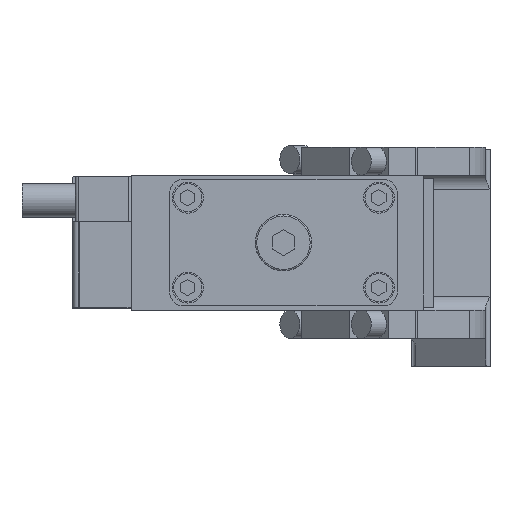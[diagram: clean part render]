
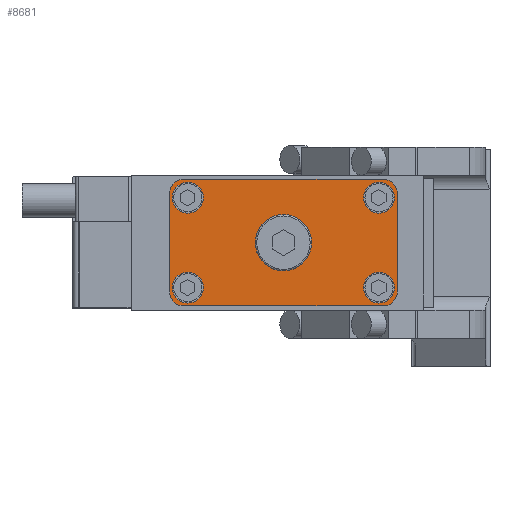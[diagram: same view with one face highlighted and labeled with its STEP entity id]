
A CAD part, front view. The second image highlights one B-rep face of the part: STEP entity #8681.
In plain terms, the highlighted planar face has unit normal (0, -1, 0).
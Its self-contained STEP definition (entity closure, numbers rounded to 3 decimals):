
#235=CIRCLE('',#9187,5.);
#238=CIRCLE('',#9192,5.);
#240=CIRCLE('',#9196,5.);
#242=CIRCLE('',#9200,5.);
#250=CIRCLE('',#9211,5.5);
#251=CIRCLE('',#9212,5.5);
#252=CIRCLE('',#9213,5.5);
#253=CIRCLE('',#9214,5.5);
#254=CIRCLE('',#9215,10.);
#747=ORIENTED_EDGE('',*,*,#2525,.F.);
#748=ORIENTED_EDGE('',*,*,#2526,.F.);
#749=ORIENTED_EDGE('',*,*,#2527,.F.);
#750=ORIENTED_EDGE('',*,*,#2528,.F.);
#751=ORIENTED_EDGE('',*,*,#2529,.T.);
#752=ORIENTED_EDGE('',*,*,#2492,.F.);
#753=ORIENTED_EDGE('',*,*,#2515,.F.);
#754=ORIENTED_EDGE('',*,*,#2512,.F.);
#755=ORIENTED_EDGE('',*,*,#2509,.F.);
#756=ORIENTED_EDGE('',*,*,#2506,.F.);
#757=ORIENTED_EDGE('',*,*,#2503,.F.);
#758=ORIENTED_EDGE('',*,*,#2500,.F.);
#759=ORIENTED_EDGE('',*,*,#2497,.F.);
#2492=EDGE_CURVE('',#3378,#3379,#235,.T.);
#2497=EDGE_CURVE('',#3379,#3383,#4005,.T.);
#2500=EDGE_CURVE('',#3383,#3385,#238,.T.);
#2503=EDGE_CURVE('',#3385,#3387,#4009,.T.);
#2506=EDGE_CURVE('',#3387,#3389,#240,.T.);
#2509=EDGE_CURVE('',#3389,#3391,#4013,.T.);
#2512=EDGE_CURVE('',#3391,#3393,#242,.T.);
#2515=EDGE_CURVE('',#3393,#3378,#4017,.T.);
#2525=EDGE_CURVE('',#3403,#3403,#250,.T.);
#2526=EDGE_CURVE('',#3404,#3404,#251,.T.);
#2527=EDGE_CURVE('',#3405,#3405,#252,.T.);
#2528=EDGE_CURVE('',#3406,#3406,#253,.T.);
#2529=EDGE_CURVE('',#3407,#3407,#254,.T.);
#3378=VERTEX_POINT('',#12247);
#3379=VERTEX_POINT('',#12248);
#3383=VERTEX_POINT('',#12258);
#3385=VERTEX_POINT('',#12264);
#3387=VERTEX_POINT('',#12270);
#3389=VERTEX_POINT('',#12276);
#3391=VERTEX_POINT('',#12282);
#3393=VERTEX_POINT('',#12288);
#3403=VERTEX_POINT('',#12314);
#3404=VERTEX_POINT('',#12316);
#3405=VERTEX_POINT('',#12318);
#3406=VERTEX_POINT('',#12320);
#3407=VERTEX_POINT('',#12322);
#4005=LINE('',#12257,#4645);
#4009=LINE('',#12269,#4649);
#4013=LINE('',#12281,#4653);
#4017=LINE('',#12293,#4657);
#4645=VECTOR('',#10147,1000.);
#4649=VECTOR('',#10159,1000.);
#4653=VECTOR('',#10171,1000.);
#4657=VECTOR('',#10183,1000.);
#5218=EDGE_LOOP('',(#747));
#5219=EDGE_LOOP('',(#748));
#5220=EDGE_LOOP('',(#749));
#5221=EDGE_LOOP('',(#750));
#5222=EDGE_LOOP('',(#751));
#5223=EDGE_LOOP('',(#752,#753,#754,#755,#756,#757,#758,#759));
#5796=FACE_BOUND('',#5218,.T.);
#5797=FACE_BOUND('',#5219,.T.);
#5798=FACE_BOUND('',#5220,.T.);
#5799=FACE_BOUND('',#5221,.T.);
#5800=FACE_BOUND('',#5222,.T.);
#5801=FACE_BOUND('',#5223,.T.);
#6317=PLANE('',#9210);
#8681=ADVANCED_FACE('',(#5796,#5797,#5798,#5799,#5800,#5801),#6317,.F.);
#9187=AXIS2_PLACEMENT_3D('',#12246,#10137,#10138);
#9192=AXIS2_PLACEMENT_3D('',#12263,#10152,#10153);
#9196=AXIS2_PLACEMENT_3D('',#12275,#10164,#10165);
#9200=AXIS2_PLACEMENT_3D('',#12287,#10176,#10177);
#9210=AXIS2_PLACEMENT_3D('',#12312,#10201,#10202);
#9211=AXIS2_PLACEMENT_3D('',#12313,#10203,#10204);
#9212=AXIS2_PLACEMENT_3D('',#12315,#10205,#10206);
#9213=AXIS2_PLACEMENT_3D('',#12317,#10207,#10208);
#9214=AXIS2_PLACEMENT_3D('',#12319,#10209,#10210);
#9215=AXIS2_PLACEMENT_3D('',#12321,#10211,#10212);
#10137=DIRECTION('',(0.,1.,0.));
#10138=DIRECTION('',(1.,0.,0.));
#10147=DIRECTION('',(0.,0.,1.));
#10152=DIRECTION('',(0.,1.,0.));
#10153=DIRECTION('',(1.,0.,0.));
#10159=DIRECTION('',(1.,0.,0.));
#10164=DIRECTION('',(0.,1.,0.));
#10165=DIRECTION('',(1.,0.,0.));
#10171=DIRECTION('',(0.,0.,-1.));
#10176=DIRECTION('',(0.,1.,0.));
#10177=DIRECTION('',(1.,0.,0.));
#10183=DIRECTION('',(-1.,0.,0.));
#10201=DIRECTION('',(0.,1.,0.));
#10202=DIRECTION('',(0.,0.,1.));
#10203=DIRECTION('',(0.,-1.,0.));
#10204=DIRECTION('',(0.,0.,-1.));
#10205=DIRECTION('',(0.,-1.,0.));
#10206=DIRECTION('',(0.,0.,-1.));
#10207=DIRECTION('',(0.,-1.,0.));
#10208=DIRECTION('',(0.,0.,-1.));
#10209=DIRECTION('',(0.,-1.,0.));
#10210=DIRECTION('',(0.,0.,-1.));
#10211=DIRECTION('',(0.,1.,0.));
#10212=DIRECTION('',(1.,0.,0.));
#12246=CARTESIAN_POINT('',(-35.5,0.,-17.5));
#12247=CARTESIAN_POINT('',(-35.5,0.,-22.5));
#12248=CARTESIAN_POINT('',(-40.5,0.,-17.5));
#12257=CARTESIAN_POINT('',(-40.5,0.,-17.5));
#12258=CARTESIAN_POINT('',(-40.5,0.,17.5));
#12263=CARTESIAN_POINT('',(-35.5,0.,17.5));
#12264=CARTESIAN_POINT('',(-35.5,0.,22.5));
#12269=CARTESIAN_POINT('',(-35.5,0.,22.5));
#12270=CARTESIAN_POINT('',(35.5,0.,22.5));
#12275=CARTESIAN_POINT('',(35.5,0.,17.5));
#12276=CARTESIAN_POINT('',(40.5,0.,17.5));
#12281=CARTESIAN_POINT('',(40.5,0.,17.5));
#12282=CARTESIAN_POINT('',(40.5,0.,-17.5));
#12287=CARTESIAN_POINT('',(35.5,0.,-17.5));
#12288=CARTESIAN_POINT('',(35.5,0.,-22.5));
#12293=CARTESIAN_POINT('',(35.5,0.,-22.5));
#12312=CARTESIAN_POINT('',(-35.5,0.,-17.5));
#12313=CARTESIAN_POINT('',(-34.,0.,-16.));
#12314=CARTESIAN_POINT('',(-34.,0.,-21.5));
#12315=CARTESIAN_POINT('',(34.,0.,-16.));
#12316=CARTESIAN_POINT('',(34.,0.,-21.5));
#12317=CARTESIAN_POINT('',(34.,0.,16.));
#12318=CARTESIAN_POINT('',(34.,0.,10.5));
#12319=CARTESIAN_POINT('',(-34.,0.,16.));
#12320=CARTESIAN_POINT('',(-34.,0.,10.5));
#12321=CARTESIAN_POINT('',(0.,0.,0.));
#12322=CARTESIAN_POINT('',(10.,0.,0.));
